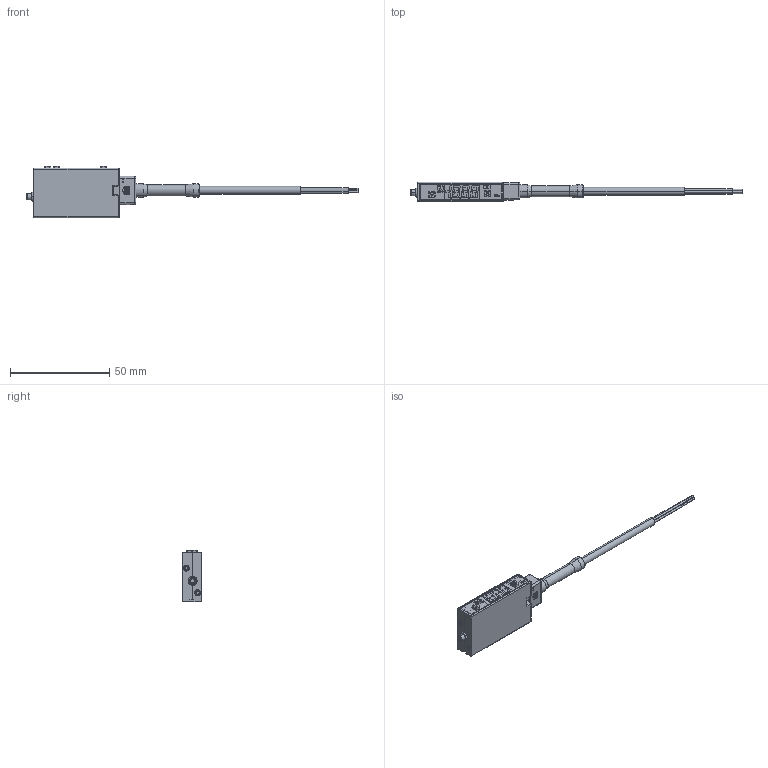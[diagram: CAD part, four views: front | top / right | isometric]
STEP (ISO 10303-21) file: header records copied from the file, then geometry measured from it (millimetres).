
FILE_DESCRIPTION((''),'2;1');
FILE_NAME('KP93_92-ALL_ASM','2026-07-02T',('tommy'),(''),'CREO PARAMETRIC BY PTC INC, 2014500','CREO PARAMETRIC BY PTC INC, 2014500','');
FILE_SCHEMA(('CONFIG_CONTROL_DESIGN'));
Products named in the file (633): P-0669; SENSOR-BOARD-KITA; FPCEL-T-04-20R-NH; SENSOR-BOARD-SIMST; SENSOR-BOARD-PC-0533-01_ASM; P-0672; P-0667-OBEA; NEW_LED_BOARD; SWITCH; LED-BOARD-CONNECTOR; UID__9223372036854832805_1_2; PLACEMENTOUTLINE-449_1_2; PLACEMENTOUTLINE-457_1_2; SUBMODEL-NOMODELFORPART_1_5KJ_3_ASM; SUBMODEL-1_5KJ_R0402_16819853_3_ASM; PLACEMENTOUTLINE-479_1_2; PLACEMENTOUTLINE-487_1_2; SUBMODEL-NOMODELFORPART_4_7-4_2_ASM; SUBMODEL-4_7KJ_R0402_16819853_3_ASM; PLACEMENTOUTLINE-509_1_2; SUBMODEL-NOMODELFORPART_NTPH5_3_ASM; SUBMODEL-NTPH56_3749043770_PA_3_ASM; PLACEMENTOUTLINE-533_1_2; SUBMODEL-NOMODELFORPART_EMB11_3_ASM; SUBMODEL-EMB11_EMT6_203623065_3_ASM; PLACEMENTOUTLINE-557_1_2; SUBMODEL-NOMODELFORPART_SETDO_3_ASM; SUBMODEL-SETDOWN_SW-TBFF2_172_3_ASM; PLACEMENTOUTLINE-579_1_2; SUBMODEL-NOMODELFORPART_UPKEY_3_ASM; SUBMODEL-UPKEY_SW-TBFF2_17282_3_ASM; PLACEMENTOUTLINE-601_1_2; SUBMODEL-NOMODELFORPART_KEYSE_3_ASM; SUBMODEL-KEYSET_SW-TBFF2_1728_3_ASM; PLACEMENTOUTLINE-623_1_2; SUBMODEL-NOMODELFORPART_LED_L_3_ASM; SUBMODEL-LED_LED-0402_2767164_3_ASM; PLACEMENTOUTLINE-697_1_2; SUBMODEL-NOMODELFORPART_LED-6_2_ASM; SUBMODEL-LED_LPAR_GREEN_RPAR__3_ASM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
Assembly tree (720 placements, depth 8):
  KP93_92-ALL_ASM
    P-0669
    SENSOR-BOARD-PC-0533-01_ASM
      SENSOR-BOARD-KITA
      FPCEL-T-04-20R-NH
      SENSOR-BOARD-SIMST
    P-0672
    P-0667-OBEA
    PC-0528-01-LED-BOARD_ASM
      NEW_LED_BOARD
      SWITCH  x3
      LED-BOARD-CONNECTOR
      528-NEW-1_ASM
        PRODUCTROOTMODEL_1_2_3_4_5_ASM
          DESIGNROOTMODEL_1_2_3_4_5_ASM
            UID__9223372036854832805_1_2
            SUBMODEL-1_5KJ_R0402_16819853_3_ASM
              SUBMODEL-NOMODELFORPART_1_5KJ_3_ASM
                PLACEMENTOUTLINE-449_1_2
                PLACEMENTOUTLINE-457_1_2
            SUBMODEL-4_7KJ_R0402_16819853_3_ASM  x8
              SUBMODEL-NOMODELFORPART_4_7-4_2_ASM
                PLACEMENTOUTLINE-479_1_2
                PLACEMENTOUTLINE-487_1_2
            SUBMODEL-NTPH56_3749043770_PA_3_ASM  x2
              SUBMODEL-NOMODELFORPART_NTPH5_3_ASM
                PLACEMENTOUTLINE-509_1_2
            SUBMODEL-EMB11_EMT6_203623065_3_ASM  x2
              SUBMODEL-NOMODELFORPART_EMB11_3_ASM
                PLACEMENTOUTLINE-533_1_2
            SUBMODEL-SETDOWN_SW-TBFF2_172_3_ASM
              SUBMODEL-NOMODELFORPART_SETDO_3_ASM
                PLACEMENTOUTLINE-557_1_2
            SUBMODEL-UPKEY_SW-TBFF2_17282_3_ASM
              SUBMODEL-NOMODELFORPART_UPKEY_3_ASM
                PLACEMENTOUTLINE-579_1_2
            SUBMODEL-KEYSET_SW-TBFF2_1728_3_ASM
              SUBMODEL-NOMODELFORPART_KEYSE_3_ASM
                PLACEMENTOUTLINE-601_1_2
            SUBMODEL-LED_LED-0402_2767164_3_ASM  x27
              SUBMODEL-NOMODELFORPART_LED_L_3_ASM
                PLACEMENTOUTLINE-623_1_2
            SUBMODEL-LED_LPAR_GREEN_RPAR__3_ASM
              SUBMODEL-NOMODELFORPART_LED-6_2_ASM
                PLACEMENTOUTLINE-697_1_2
            SUBMODEL-LED_LPAR_RED_RPAR__L_3_ASM
              SUBMODEL-NOMODELFORPART_LED-7_2_ASM
                PLACEMENTOUTLINE-719_1_2
            SUBMODEL-XC6216B521MR-G_SOT23_4_ASM
              SUBMODEL-NOMODELFORPART_XC621_5_ASM
                PLACEMENTOUTLINE-741_1_2
            SUBMODEL-GND_PAD-1X1MM_284295_3_ASM
              SUBMODEL-NOMODELFORPART_GND_P_3_ASM
                PLACEMENTOUTLINE-763_1_2
            SUBMODEL-VCC_5V_PAD-1X1MM_284_3_ASM
              SUBMODEL-NOMODELFORPART_VCC_5_3_ASM
                PLACEMENTOUTLINE-785_1_2
            SUBMODEL-_24V_PAD-1X1MM_28429_3_ASM
              SUBMODEL-NOMODELFORPART__24V__3_ASM
                PLACEMENTOUTLINE-807_1_2
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Bounding box: 167.2 x 9.8 x 26.09 mm (x, y, z)
Volume: 14695.2 mm3; surface area: 32456 mm2
Topology: 407 solids, 407 shells, 5512 faces, 13251 edges, 8744 vertices
Faces by surface type: plane 4480, cylinder 829, cone 90, bspline 55, torus 40, sphere 18
Entity records: 159442 total; most frequent: CARTESIAN_POINT 32648, DIRECTION 26151, ORIENTED_EDGE 22840, EDGE_CURVE 11420, VECTOR 9583, LINE 9583, AXIS2_PLACEMENT_3D 8284, VERTEX_POINT 7530
